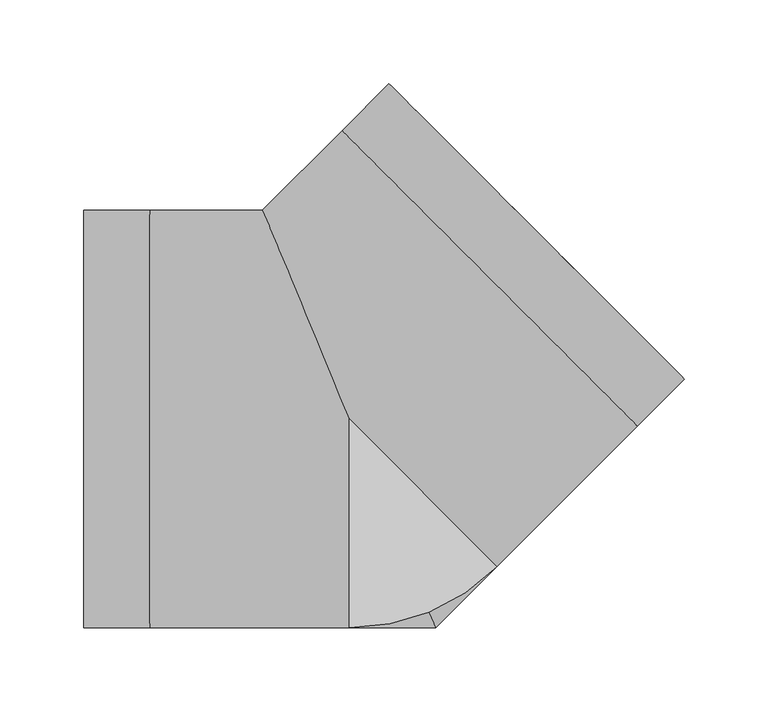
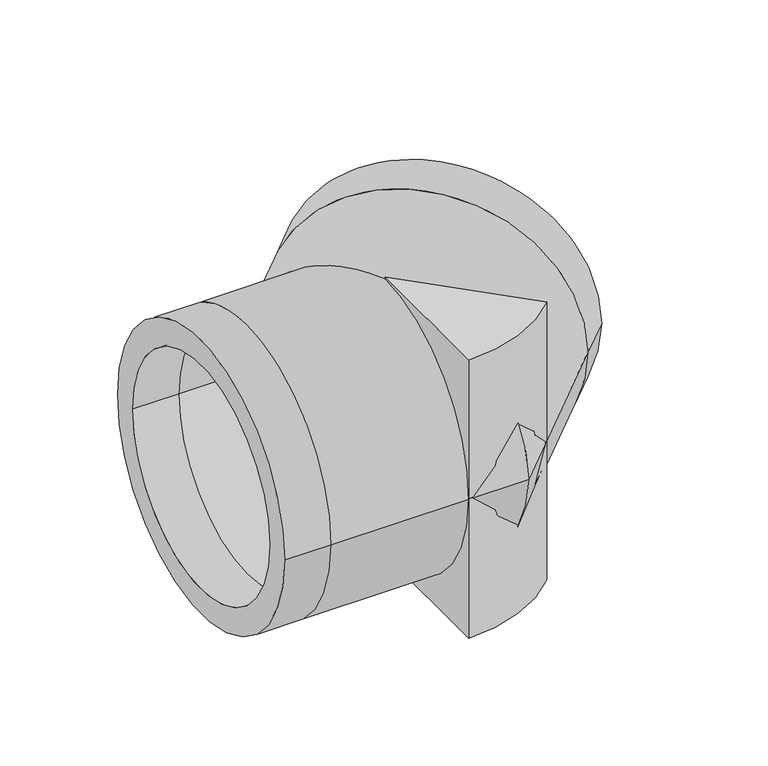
"""IFC4 building model written with IfcOpenShell, lengths in millimetres: pipe fitting geometry, Aquatherm - Elbow Green BW Segmented : SDR 11 NON-FASER."""

from ifc_helpers import new_model, si_unit, point, frame, origin, origin_with_axes, origin_2d, place, context, project, spatial, polyline, circle_curve, ellipse_curve, trimmed, segment, composite_curve, outline, extrude, source, transform, mapped, element, save
from ifc_brep_helpers import plane_surface, cylinder_surface, revolved_surface, advanced_brep


def pipe_fitting_a807f14c(model_context):
    return source(origin(), model_context, "Body", "SolidModel", [
        extrude(outline(composite_curve([segment(polyline([(0.0, -124.968), (0.0, 0.0), (88.3657202, -88.3657202)]), True, "CONTINUOUS"), segment(trimmed(circle_curve(origin_2d(), 124.968), [point((88.3657202, -88.3657202))], [point((0.0, -124.968))], False, "CARTESIAN"), True, "CONTINUOUS")], self_intersect=False)), frame((0.0, 0.0, -127.0), z_axis=(0.0, 0.0, 1.0), x_axis=(1.0, 0.0, 0.0)), (0.0, 0.0, 1.0), 127.0),
        extrude(outline(composite_curve([segment(trimmed(circle_curve(origin_2d(), 124.968), [point((88.3657202, -88.3657202))], [point((0.0, -124.968))], False, "CARTESIAN"), True, "CONTINUOUS"), segment(polyline([(0.0, -124.968), (0.0, 0.0), (88.3657202, -88.3657202)]), True, "CONTINUOUS")], self_intersect=False)), origin_with_axes(), (0.0, 0.0, 1.0), 127.0),
        advanced_brep(
        [(-158.75, -124.968, 0.0), (-158.75, 124.968, 0.0), (-158.75, -102.2465455, 0.0), (-158.75, 102.2465455, 0.0), (200.6189217, 23.8874813, 0.0), (23.8874813, 200.6189217, 0.0), (184.5524272, 39.9539759, 0.0), (39.9539759, 184.5524272, 0.0), (-119.0625, -124.968, 0.0), (-119.0625, 124.968, 0.0), (-119.0625, -102.2465455, 0.0), (-119.0625, 102.2465455, 0.0), (51.7634405, -124.968, 0.0), (-51.7634405, 124.968, 0.0), (42.3519058, -102.2465455, 0.0), (-42.3519058, 102.2465455, 0.0), (172.5556214, -4.1758191, 0.0), (-4.1758191, 172.5556214, 0.0), (156.4891268, 11.8906755, 0.0), (11.8906755, 156.4891268, 0.0)],
        [
            (0, 1, circle_curve(frame((-158.75, 0.0, 0.0), z_axis=(-1.0, 0.0, 0.0), x_axis=(0.0, 1.0, 0.0)), 124.968)),
            (1, 0, circle_curve(frame((-158.75, 0.0, 0.0), z_axis=(-1.0, 0.0, 0.0), x_axis=(0.0, 1.0, 0.0)), 124.968)),
            (2, 3, circle_curve(frame((-158.75, 0.0, 0.0), z_axis=(1.0, 0.0, 0.0), x_axis=(0.0, 1.0, 0.0)), 102.2465455)),
            (3, 2, circle_curve(frame((-158.75, 0.0, 0.0), z_axis=(1.0, 0.0, 0.0), x_axis=(0.0, 1.0, 0.0)), 102.2465455)),
            (4, 5, circle_curve(frame((112.2532015, 112.2532015, 0.0), z_axis=(0.7071067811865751, 0.70710678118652, 0.0), x_axis=(-0.70710678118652, 0.7071067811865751, 0.0)), 124.968)),
            (5, 4, circle_curve(frame((112.2532015, 112.2532015, 0.0), z_axis=(0.7071067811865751, 0.70710678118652, 0.0), x_axis=(-0.70710678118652, 0.7071067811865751, 0.0)), 124.968)),
            (6, 7, circle_curve(frame((112.2532015, 112.2532015, 0.0), z_axis=(-0.7071067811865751, -0.70710678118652, 0.0), x_axis=(-0.70710678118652, 0.7071067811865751, 0.0)), 102.2465455)),
            (7, 6, circle_curve(frame((112.2532015, 112.2532015, 0.0), z_axis=(-0.7071067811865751, -0.70710678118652, 0.0), x_axis=(-0.70710678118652, 0.7071067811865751, 0.0)), 102.2465455)),
            (0, 8),
            (8, 9, circle_curve(frame((-119.0625, 0.0, 0.0), z_axis=(-1.0, 0.0, 0.0), x_axis=(0.0, 1.0, 0.0)), 124.968)),
            (9, 1),
            (9, 8, circle_curve(frame((-119.0625, 0.0, 0.0), z_axis=(-1.0, 0.0, 0.0), x_axis=(0.0, 1.0, 0.0)), 124.968)),
            (2, 10),
            (10, 11, circle_curve(frame((-119.0625, 0.0, 0.0), z_axis=(1.0, 0.0, 0.0), x_axis=(0.0, 1.0, 0.0)), 102.2465455)),
            (11, 3),
            (11, 10, circle_curve(frame((-119.0625, 0.0, 0.0), z_axis=(1.0, 0.0, 0.0), x_axis=(0.0, 1.0, 0.0)), 102.2465455)),
            (8, 12),
            (12, 13, ellipse_curve(frame((0.0, 0.0, 0.0), z_axis=(-0.9238795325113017, -0.3826834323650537, 0.0), x_axis=(-0.38268343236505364, 0.9238795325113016, 0.0)), 135.2643885, 124.968)),
            (13, 9),
            (13, 12, ellipse_curve(frame((0.0, 0.0, 0.0), z_axis=(-0.9238795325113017, -0.3826834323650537, 0.0), x_axis=(-0.38268343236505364, 0.9238795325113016, 0.0)), 135.2643885, 124.968)),
            (10, 14),
            (14, 15, ellipse_curve(frame((0.0, 0.0, 0.0), z_axis=(0.9238795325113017, 0.3826834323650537, 0.0), x_axis=(0.38268343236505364, -0.9238795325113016, 0.0)), 110.6708633, 102.2465455)),
            (15, 11),
            (15, 14, ellipse_curve(frame((0.0, 0.0, 0.0), z_axis=(0.9238795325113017, 0.3826834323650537, 0.0), x_axis=(0.38268343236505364, -0.9238795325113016, 0.0)), 110.6708633, 102.2465455)),
            (12, 16),
            (16, 17, circle_curve(frame((84.1899011, 84.1899011, 0.0), z_axis=(-0.7071067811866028, -0.7071067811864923, 0.0), x_axis=(-0.7071067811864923, 0.7071067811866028, 0.0)), 124.968)),
            (17, 13),
            (17, 16, circle_curve(frame((84.1899011, 84.1899011, 0.0), z_axis=(-0.7071067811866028, -0.7071067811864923, 0.0), x_axis=(-0.7071067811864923, 0.7071067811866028, 0.0)), 124.968)),
            (14, 18),
            (18, 19, circle_curve(frame((84.1899011, 84.1899011, 0.0), z_axis=(0.7071067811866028, 0.7071067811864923, 0.0), x_axis=(-0.7071067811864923, 0.7071067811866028, 0.0)), 102.2465455)),
            (19, 15),
            (19, 18, circle_curve(frame((84.1899011, 84.1899011, 0.0), z_axis=(0.7071067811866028, 0.7071067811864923, 0.0), x_axis=(-0.7071067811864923, 0.7071067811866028, 0.0)), 102.2465455)),
            (16, 4),
            (5, 17),
            (18, 6),
            (7, 19),
        ],
        [
            plane_surface(frame((-158.75, 0.0, 0.0), z_axis=(-1.0, 0.0, 0.0), x_axis=(0.0, 0.0, 1.0))),
            plane_surface(frame((112.2532015, 112.2532015, 0.0), z_axis=(0.7071067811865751, 0.7071067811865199, 0.0), x_axis=(0.0, 0.0, 1.0))),
            cylinder_surface(frame((-158.75, 0.0, 0.0), z_axis=(-1.0, 0.0, 0.0), x_axis=(0.0, 1.0, 0.0)), 124.968),
            revolved_surface(polyline([(-119.0625, 102.2465455, 0.0), (-158.75, 102.2465455, 0.0)]), (-158.75, 0.0, 0.0), (1.0, 0.0, 0.0)),
            cylinder_surface(frame((-119.0625, 0.0, 0.0), z_axis=(-1.0, 0.0, 0.0), x_axis=(0.0, 1.0, 0.0)), 124.968),
            revolved_surface(polyline([(42.351905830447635, 102.2465455, 0.0), (-119.0625, 102.2465455, 0.0)]), (-119.0625, 0.0, 0.0), (1.0, 0.0, 0.0)),
            cylinder_surface(frame((0.0, 0.0, 0.0), z_axis=(-0.7071067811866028, -0.7071067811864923, 0.0), x_axis=(-0.7071067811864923, 0.7071067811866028, 0.0)), 124.968),
            revolved_surface(polyline([(11.890675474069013, 156.48912682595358, 0.0), (-102.24654552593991, 42.351905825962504, 0.0)]), (0.0, 0.0, 0.0), (0.7071067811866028, 0.7071067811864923, 0.0)),
            cylinder_surface(frame((84.1899011, 84.1899011, 0.0), z_axis=(-0.7071067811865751, -0.70710678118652, 0.0), x_axis=(-0.70710678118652, 0.7071067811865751, 0.0)), 124.968),
            revolved_surface(polyline([(39.95397587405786, 184.55242722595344, 0.0), (11.890675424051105, 156.48912677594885, 0.0)]), (84.1899011, 84.1899011, 0.0), (0.7071067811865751, 0.70710678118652, 0.0)),
        ],
        [
            (0, [[1, 2], [3, 4]]),
            (1, [[5, 6], [7, 8]]),
            (2, [[-1, 9, 10, 11]]),
            (2, [[-2, -11, 12, -9]]),
            (3, [[-3, 13, 14, 15]]),
            (3, [[-4, -15, 16, -13]]),
            (4, [[-10, 17, 18, 19]]),
            (4, [[-12, -19, 20, -17]]),
            (5, [[-14, 21, 22, 23]]),
            (5, [[-16, -23, 24, -21]]),
            (6, [[-18, 25, 26, 27]]),
            (6, [[-20, -27, 28, -25]]),
            (7, [[-22, 29, 30, 31]]),
            (7, [[-24, -31, 32, -29]]),
            (8, [[-26, 33, -6, 34]]),
            (8, [[-28, -34, -5, -33]]),
            (9, [[-30, 35, -8, 36]]),
            (9, [[-32, -36, -7, -35]]),
        ],
    ),
    ])


if __name__ == "__main__":
    model = new_model("IFC4")
    model_context = context("Model", 3, world=origin())
    ifc_project = project(units=[si_unit("LENGTHUNIT", "METRE", prefix="MILLI")], contexts=[model_context])
    site = spatial("IfcSite", under=ifc_project)
    building = spatial("IfcBuilding", under=site)
    placement = place(None, origin())
    pipe_fitting_shape = pipe_fitting_a807f14c(model_context)
    element("IfcPipeFitting", 1, ObjectType="Aquatherm - Elbow Green BW Segmented : SDR 11 NON-FASER", at=placement, inside=building, context=model_context, shape_type="MappedRepresentation", body=[
        mapped(pipe_fitting_shape, transform((0.0, 0.0, 0.0), x_axis=(1.0, 0.0, 0.0), y_axis=(0.0, 1.0, 0.0), z_axis=(0.0, 0.0, 1.0))),
    ])
    save(model, "model.ifc")
